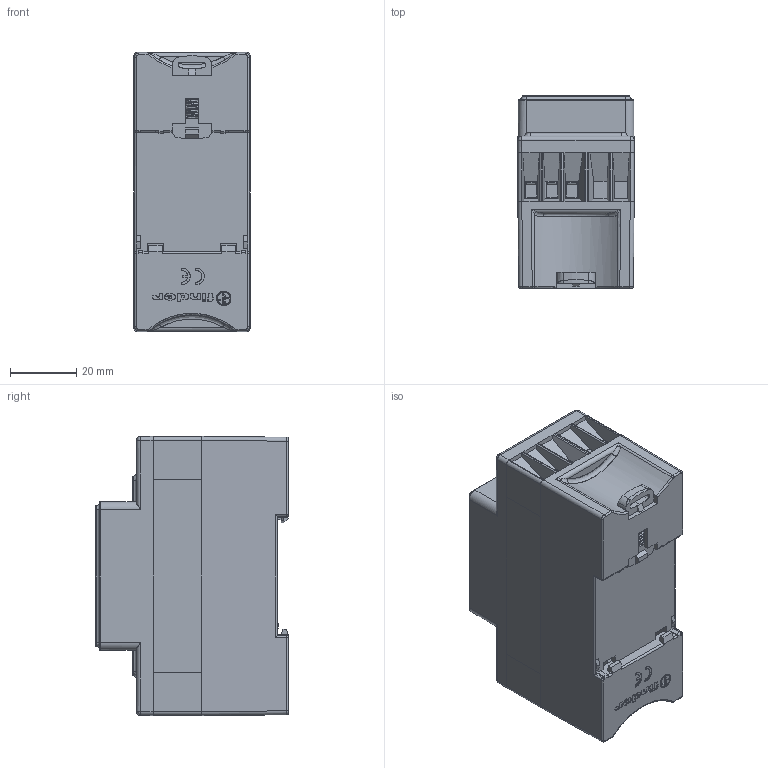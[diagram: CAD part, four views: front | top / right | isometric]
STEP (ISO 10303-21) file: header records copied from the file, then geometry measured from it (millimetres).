
FILE_DESCRIPTION(('STEP AP214'),'2;1');
FILE_NAME('1301.stp','2012-03-09T16:06:27',(''),(''),'2007.1.106','THINKDESIGN','');
FILE_SCHEMA(('AUTOMOTIVE_DESIGN'));
Length unit declared in the file: millimetre
Products named in the file (1): top
Bounding box: 35 x 58 x 84 mm (x, y, z)
Surface area: 25639.7 mm2 (no closed solid volume)
Topology: 0 solids, 0 shells, 1046 faces, 5979 edges, 5953 vertices
Faces by surface type: plane 741, cylinder 213, bspline 92
Full cylindrical faces by diameter (mm): 3 x8, 4.2 x10, 4.352 x1, 12 x1, 13 x1
Entity records: 59821 total; most frequent: CARTESIAN_POINT 25294, DIRECTION 7442, COMPOSITE_CURVE_SEGMENT 5966, TRIMMED_CURVE 5103, VECTOR 4758, LINE 4758, AXIS2_PLACEMENT_3D 1342, OUTER_BOUNDARY_CURVE 1046
